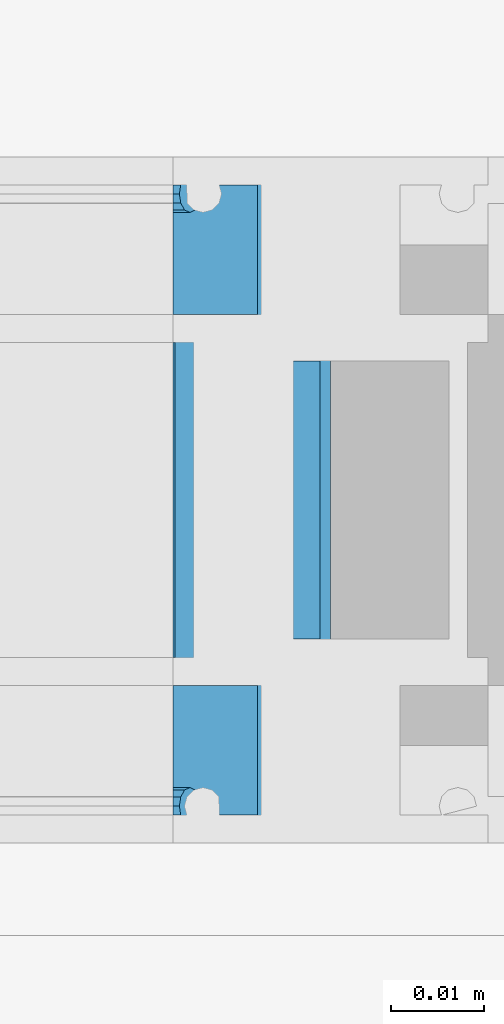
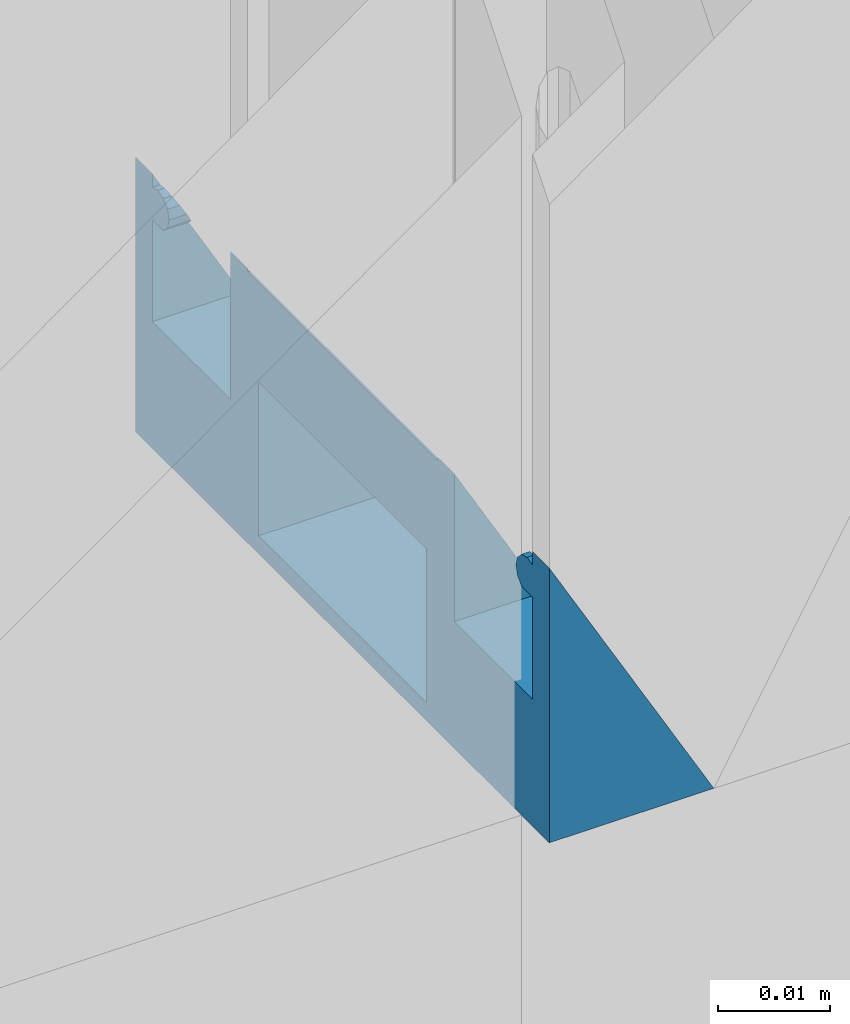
# One storey, part 22 of 43: 1 member, 1 element without a shape of its own.
"""IFC2X3 building model written with IfcOpenShell, lengths in millimetres."""

import ifcopenshell
import ifcopenshell.guid

model = None  # the IFC model being written
_history = None  # IfcOwnerHistory: only IFC2X3 demands one
_inside = {}  # id of a spatial element -> (the spatial element, [elements in it])
_under = {}  # id of a project, library or spatial element -> (it, [spatial elements below it])
_declared = {}  # id of a project -> (the project, [libraries it declares])
_typed = {}  # id of a type object -> (the type object, [elements of that type])
_made_of = {}  # id of a material, layer set ... -> (it, [elements and type objects made of it])


def new_model(schema):
    """Start an empty IFC model of exactly this schema.

    Asked for "IFC4X3", IfcOpenShell would pick the latest addendum, in which some entities
    have other attributes; the version numbers below select the first issue.
    IFC2X3 requires an IfcOwnerHistory on every rooted entity: one is made here for all.
    """
    global model, _history
    if schema == "IFC4X3":
        model = ifcopenshell.file(schema_version=(4, 3, 0, 0))
    else:
        model = ifcopenshell.file(schema=schema)
    _inside.clear()
    _under.clear()
    _declared.clear()
    _typed.clear()
    _made_of.clear()
    _history = None
    if model.schema == "IFC2X3":
        org = make("IfcOrganization", Name="unknown")
        user = make(
            "IfcPersonAndOrganization",
            ThePerson=make("IfcPerson", FamilyName="unknown"),
            TheOrganization=org,
        )
        app = make(
            "IfcApplication",
            ApplicationDeveloper=org,
            Version="unknown",
            ApplicationFullName="unknown",
            ApplicationIdentifier="unknown",
        )
        _history = make(
            "IfcOwnerHistory",
            OwningUser=user,
            OwningApplication=app,
            ChangeAction="ADDED",
            CreationDate=0,
        )
    return model


def make(cls, **values):
    """One entity of the class cls with the attributes given. An attribute that is None is left unset."""
    return model.create_entity(
        cls, **{name: value for name, value in values.items() if value is not None}
    )


def entity(cls, *values):
    """Any entity or typed value of the class cls, its attributes in the order of the schema. None: left unset."""
    e = model.create_entity(cls)
    for i, value in enumerate(values):
        if value is not None:
            e[i] = value
    return e


def rooted(cls, **values):
    """An entity with a GlobalId (a new one), such as an element, a storey or a relation."""
    return make(cls, GlobalId=ifcopenshell.guid.new(), OwnerHistory=_history, **values)


def si_unit(unit_type, name, prefix=None):
    """IfcSIUnit, for example si_unit("LENGTHUNIT", "METRE", prefix="MILLI")."""
    return make("IfcSIUnit", UnitType=unit_type, Prefix=prefix, Name=name)


def converted_unit(unit_type, name, factor, base, dimensions=None, offset=None):
    """IfcConversionBasedUnit, such as the inch: factor (a typed value) times the base unit."""
    return make(
        "IfcConversionBasedUnit"
        if offset is None
        else "IfcConversionBasedUnitWithOffset",
        ConversionOffset=offset,
        Dimensions=None
        if dimensions is None
        else entity("IfcDimensionalExponents", *dimensions),
        UnitType=unit_type,
        Name=name,
        ConversionFactor=make(
            "IfcMeasureWithUnit", ValueComponent=factor, UnitComponent=base
        ),
    )


def derived_unit(unit_type, elements):
    """IfcDerivedUnit: a product of units, each with its exponent."""
    return make(
        "IfcDerivedUnit",
        Elements=[
            make("IfcDerivedUnitElement", Unit=unit, Exponent=power)
            for unit, power in elements
        ],
        UnitType=unit_type,
    )


def money_unit(currency):
    """IfcMonetaryUnit."""
    return make("IfcMonetaryUnit", Currency=currency)


def assignment(units):
    """IfcUnitAssignment: the units of a project."""
    return None if units is None else make("IfcUnitAssignment", Units=units)


def point(xyz):
    """IfcCartesianPoint."""
    return None if xyz is None else make("IfcCartesianPoint", Coordinates=xyz)


def direction(xyz):
    """IfcDirection."""
    return None if xyz is None else make("IfcDirection", DirectionRatios=xyz)


def frame(location, z_axis=None, x_axis=None):
    """IfcAxis2Placement3D, a coordinate frame: its origin and axes. An axis left out is left unset."""
    return make(
        "IfcAxis2Placement3D",
        Location=point(location),
        Axis=direction(z_axis),
        RefDirection=direction(x_axis),
    )


def origin_with_axes():
    """The frame at (0, 0, 0) with the z axis (0, 0, 1) and the x axis (1, 0, 0) written out."""
    return frame((0.0, 0.0, 0.0), z_axis=(0.0, 0.0, 1.0), x_axis=(1.0, 0.0, 0.0))


def place(relative_to, where):
    """IfcLocalPlacement: puts the frame where relative to a parent placement (None: the world)."""
    return make(
        "IfcLocalPlacement", PlacementRelTo=relative_to, RelativePlacement=where
    )


def context(
    kind, dimensions, precision=None, world=None, true_north=None, identifier=None
):
    """IfcGeometricRepresentationContext, for example the 3D "Model" context."""
    return make(
        "IfcGeometricRepresentationContext",
        ContextIdentifier=identifier,
        ContextType=kind,
        CoordinateSpaceDimension=dimensions,
        Precision=precision,
        WorldCoordinateSystem=world,
        TrueNorth=true_north,
    )


def subcontext(parent, identifier, kind, view, scale=None):
    """IfcGeometricRepresentationSubContext, for example "Body" below "Model"."""
    return make(
        "IfcGeometricRepresentationSubContext",
        ContextIdentifier=identifier,
        ContextType=kind,
        ParentContext=parent,
        TargetScale=scale,
        TargetView=view,
    )


def project(units=None, contexts=None):
    """IfcProject with its units and contexts."""
    return rooted(
        "IfcProject",
        Name="project",
        RepresentationContexts=contexts,
        UnitsInContext=assignment(units),
    )


def spatial(cls, under=None, at=None, **own):
    """A site, building, storey or space (cls), placed at a placement, below another one or the project."""
    s = rooted(cls, ObjectPlacement=at, **own)
    if under is not None:
        _under.setdefault(under.id(), (under, []))[1].append(s)
    return s


def faces_of(points, faces, orient=None, outer=None):
    """IfcFace entities. A face is a list of loops; a loop is a list of indices into points, from 0.

    orient and outer hold one flag for each loop. By default every Orientation is true, the
    first loop of a face is its IfcFaceOuterBound and the others are IfcFaceBound.
    """
    made = []
    for i, loops in enumerate(faces):
        bounds = []
        for j, loop in enumerate(loops):
            is_outer = j == 0 if outer is None else outer[i][j]
            bounds.append(
                make(
                    "IfcFaceOuterBound" if is_outer else "IfcFaceBound",
                    Bound=make("IfcPolyLoop", Polygon=[points[k] for k in loop]),
                    Orientation=True if orient is None else orient[i][j],
                )
            )
        made.append(make("IfcFace", Bounds=bounds))
    return made


def faceted_brep(points, faces, orient=None, outer=None, voids=None):
    """IfcFacetedBrep: a solid bounded by flat faces; with voids (closed shells), ...WithVoids."""
    shared = [point(p) for p in points]
    hull = make("IfcClosedShell", CfsFaces=faces_of(shared, faces, orient, outer))
    if voids is None:
        return make("IfcFacetedBrep", Outer=hull)
    return make(
        "IfcFacetedBrepWithVoids",
        Outer=hull,
        Voids=[
            make(cls, CfsFaces=faces_of(shared, fs, o, b)) for cls, fs, o, b in voids
        ],
    )


def shape(context_of_items, identifier, shape_type, items):
    """IfcShapeRepresentation: the items that make up one representation, for example the "Body"."""
    return make(
        "IfcShapeRepresentation",
        ContextOfItems=context_of_items,
        RepresentationIdentifier=identifier,
        RepresentationType=shape_type,
        Items=items,
    )


def material(Name=None, Category=None):
    """IfcMaterial."""
    return make("IfcMaterial", Name=Name, Category=Category)


def material_list(materials):
    """IfcMaterialList."""
    return make("IfcMaterialList", Materials=materials)


def made_of(thing, what):
    """Note that an element or type object is made of a material, layer set ...; save() writes the relation."""
    if what is not None:
        _made_of.setdefault(what.id(), (what, []))[1].append(thing)
    return thing


def type_object(cls, material=None, **own):
    """A type object (cls), such as IfcWallType, which elements share."""
    return made_of(rooted(cls, **own), material)


def element(
    cls,
    number,
    at=None,
    inside=None,
    cuts=None,
    type_object=None,
    material=None,
    context=None,
    identifier="Body",
    shape_type=None,
    held_by="IfcProductDefinitionShape",
    body=None,
    shapes=None,
    **own,
):
    """One element of the class cls, such as IfcWall. Its Tag is "e" and its number.

    at: its placement. inside: the storey or other place that contains it. cuts: it is an
    opening in that element (IfcRelVoidsElement). A single representation is given by context,
    identifier, shape_type and body (its items); several are given by shapes. held_by: the class
    of the entity that holds the representations. save() writes the other relations.
    """
    e = rooted(cls, Tag="e%d" % number, ObjectPlacement=at, **own)
    if body is not None:
        shapes = [shape(context, identifier, shape_type, body)]
    if shapes is not None:
        e.Representation = make(held_by, Representations=shapes)
    if inside is not None:
        _inside.setdefault(inside.id(), (inside, []))[1].append(e)
    if cuts is not None:
        rooted(
            "IfcRelVoidsElement", RelatingBuildingElement=cuts, RelatedOpeningElement=e
        )
    if type_object is not None:
        _typed.setdefault(type_object.id(), (type_object, []))[1].append(e)
    return made_of(e, material)


def aggregate(whole, parts):
    """IfcRelAggregates: a whole, such as a stair, and the parts it consists of."""
    return rooted("IfcRelAggregates", RelatingObject=whole, RelatedObjects=parts)


def save(model, path):
    """Write the relations noted so far, then the file.

    IfcRelAggregates (storeys below a building ...), IfcRelContainedInSpatialStructure (elements
    in a storey), IfcRelDefinesByType, IfcRelAssociatesMaterial and IfcRelDeclares: one each for
    every whole, place, type object, material and project.
    """
    for whole, parts in _under.values():
        aggregate(whole, parts)
    for where, things in _inside.values():
        rooted(
            "IfcRelContainedInSpatialStructure",
            RelatedElements=things,
            RelatingStructure=where,
        )
    for kind, things in _typed.values():
        rooted("IfcRelDefinesByType", RelatedObjects=things, RelatingType=kind)
    for what, things in _made_of.values():
        rooted("IfcRelAssociatesMaterial", RelatedObjects=things, RelatingMaterial=what)
    for by, libraries in _declared.values():
        rooted("IfcRelDeclares", RelatingContext=by, RelatedDefinitions=libraries)
    model.write(path)


model = new_model("IFC2X3")

# Units and contexts
model_context = context("Model", 3, precision=0.01, world=origin_with_axes(), true_north=direction((0.0, 1.0)))
body_context = subcontext(model_context, "Body", "Model", "MODEL_VIEW")
ifc_project = project(units=[si_unit("LENGTHUNIT", "METRE", prefix="MILLI"), si_unit("AREAUNIT", "SQUARE_METRE"), si_unit("VOLUMEUNIT", "CUBIC_METRE"), converted_unit("PLANEANGLEUNIT", "DEGREE", entity("IfcPlaneAngleMeasure", 0.0174532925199), si_unit("PLANEANGLEUNIT", "RADIAN"), dimensions=[0, 0, 0, 0, 0, 0, 0]), si_unit("SOLIDANGLEUNIT", "STERADIAN"), money_unit("EUR"), converted_unit("TIMEUNIT", "Year", entity("IfcTimeMeasure", 31556926.0), si_unit("TIMEUNIT", "SECOND"), dimensions=[0, 0, 1, 0, 0, 0, 0]), si_unit("MASSUNIT", "GRAM", prefix="KILO"), si_unit("THERMODYNAMICTEMPERATUREUNIT", "DEGREE_CELSIUS"), si_unit("LUMINOUSINTENSITYUNIT", "LUMEN"), si_unit("ENERGYUNIT", "JOULE", prefix="MEGA"), derived_unit("THERMALCONDUCTANCEUNIT", [(si_unit("POWERUNIT", "WATT"), 1), (si_unit("LENGTHUNIT", "METRE"), -1), (si_unit("THERMODYNAMICTEMPERATUREUNIT", "KELVIN"), -1)]), derived_unit("SPECIFICHEATCAPACITYUNIT", [(si_unit("ENERGYUNIT", "JOULE"), 1), (si_unit("MASSUNIT", "GRAM", prefix="KILO"), -1), (si_unit("THERMODYNAMICTEMPERATUREUNIT", "KELVIN"), -1)]), derived_unit("MASSDENSITYUNIT", [(si_unit("MASSUNIT", "GRAM", prefix="KILO"), 1), (si_unit("VOLUMEUNIT", "CUBIC_METRE"), -1)])], contexts=[model_context])

# Site, building, storey
site_placement = place(None, origin_with_axes())
site = spatial("IfcSite", under=ifc_project, at=site_placement, Name="L.Koidula tn 11b", CompositionType="ELEMENT")
building_placement = place(site_placement, origin_with_axes())
building = spatial("IfcBuilding", under=site, at=building_placement, Name="Rakvere Riigigümnaasium", CompositionType="ELEMENT")
storey_placement = place(building_placement, frame((0.0, 0.0, 6665.0), z_axis=(0.0, 0.0, 1.0), x_axis=(1.0, 0.0, 0.0)))
storey = spatial("IfcBuildingStorey", under=building, at=storey_placement, Name="3.korrus +6,66", CompositionType="ELEMENT", Elevation=6665.0)

# Curtain wall, member
curtain_wall_type = type_object("IfcCurtainWallType", Name="Curtain Wall Type", PredefinedType="NOTDEFINED")
curtain_wall_placement = place(storey_placement, frame((58878.6347232, 19272.4397072, 0.0), z_axis=(0.0, 0.0, 1.0), x_axis=(1.0, 0.0, 0.0)))
curtain_wall = element("IfcCurtainWall", 1, at=curtain_wall_placement, inside=storey, type_object=curtain_wall_type, Name="SKLF-29")
ifc_material_1 = material(Name="Klaasvill")
ifc_material_2 = material(Name="Teras RAL7012")
ifc_material_list = material_list([ifc_material_1, ifc_material_2])
member_type = type_object("IfcMemberType", Name="Siseklaasfassaad-Servaprofiil-Doubleline30 30 x 42", PredefinedType="MULLION")
member_placement = place(curtain_wall_placement, frame((454.399993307, 0.0, 2400.0), z_axis=(1.0, 0.0, 0.0), x_axis=(0.0, 0.0, 1.0)))
member = element("IfcMember", 2, at=member_placement, type_object=member_type, material=ifc_material_list, Name="Frame-Siseklaasf-377", ObjectType="MULLION", context=body_context, shape_type="Brep", body=[
    faceted_brep([(7.49999990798, 15.000000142, 0.0), (13.8499999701, 15.000000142, 0.0), (13.8499999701, 15.000000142, 9.15167118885), (7.49999990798, 15.000000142, 12.7500063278), (7.49999990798, 29.0161444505, 0.0), (13.8499999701, 29.0161444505, 0.0), (13.8499999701, 29.0161444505, 9.15167118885), (7.49999990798, 29.0161444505, 12.7500063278)], [[[0, 1, 2, 3]], [[0, 4, 5, 1]], [[1, 5, 6, 2]], [[3, 2, 6, 7]], [[4, 0, 3, 7]], [[5, 4, 7, 6]]]),
    faceted_brep([(24.987414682, 29.0161444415, 0.0), (25.004489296, 27.0307503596, 0.0), (25.004489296, 27.0307503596, 2.83079079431), (24.987414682, 29.0161444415, 2.84046641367), (28.5126239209, 29.0161444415, 0.0), (28.7655837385, 28.0385325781, 0.0), (28.4955493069, 27.0307503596, 0.0), (27.75780152, 26.2930025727, 0.0), (26.7500193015, 26.0229681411, 0.0), (25.742237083, 26.2930025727, 0.0), (25.742237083, 26.2930025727, 2.41273350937), (26.7500193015, 26.0229681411, 1.84165663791), (27.75780152, 26.2930025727, 1.27057976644), (28.4955493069, 27.0307503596, 0.852522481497), (28.7655837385, 28.0385325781, 0.699502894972), (28.5126239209, 29.0161444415, 0.842846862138)], [[[0, 1, 2, 3]], [[0, 4, 5, 6, 7, 8, 9, 1]], [[1, 9, 10, 2]], [[3, 2, 10, 11, 12, 13, 14, 15]], [[4, 0, 3, 15]], [[5, 4, 15, 14]], [[6, 5, 14, 13]], [[7, 6, 13, 12]], [[8, 7, 12, 11]], [[9, 8, 11, 10]]]),
    faceted_brep([(7.49999990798, -24.9999997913, 0.0), (7.49999990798, -39.0161445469, 0.0), (7.49999990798, -39.0161445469, 12.7500063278), (7.49999990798, -24.9999997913, 12.7500063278), (13.8499999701, -24.9999997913, 0.0), (13.8499999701, -39.0161445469, 0.0), (13.8499999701, -39.0161445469, 9.15167118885), (13.8499999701, -24.9999997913, 9.15167118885)], [[[0, 1, 2, 3]], [[0, 4, 5, 1]], [[1, 5, 6, 2]], [[3, 2, 6, 7]], [[4, 0, 3, 7]], [[5, 4, 7, 6]]]),
    faceted_brep([(25.004489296, -37.0307503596, 0.0), (24.987414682, -39.0161444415, 0.0), (24.987414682, -39.0161444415, 2.84046641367), (25.004489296, -37.0307503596, 2.83079079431), (25.742237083, -36.2930025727, 0.0), (26.7500193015, -36.0229681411, 0.0), (27.75780152, -36.2930025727, 0.0), (28.4955493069, -37.0307503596, 0.0), (28.7655837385, -38.0385325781, 0.0), (28.5126239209, -39.0161444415, 0.0), (28.5126239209, -39.0161444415, 0.842846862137), (28.7655837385, -38.0385325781, 0.699502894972), (28.4955493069, -37.0307503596, 0.852522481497), (27.75780152, -36.2930025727, 1.27057976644), (26.7500193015, -36.0229681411, 1.84165663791), (25.742237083, -36.2930025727, 2.41273350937)], [[[0, 1, 2, 3]], [[0, 4, 5, 6, 7, 8, 9, 1]], [[1, 9, 10, 2]], [[3, 2, 10, 11, 12, 13, 14, 15]], [[4, 0, 3, 15]], [[5, 4, 15, 14]], [[6, 5, 14, 13]], [[7, 6, 13, 12]], [[8, 7, 12, 11]], [[9, 8, 11, 10]]]),
    faceted_brep([(0.0, -22.0000000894, 0.0), (29.5999996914, -22.0000000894, 0.0), (29.5999996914, -22.0000000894, 0.226666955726), (0.0, -22.0000000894, 17.0000083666), (0.0, 12.0000000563, 0.0), (29.5999996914, 12.0000000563, 0.0), (1.9999999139, 10.0000001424, 0.0), (1.9999999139, -20.0000001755, 0.0), (18.7999996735, -20.0000001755, 0.0), (18.7999996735, 10.0000001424, 0.0), (29.5999996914, 12.0000000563, 0.226666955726), (0.0, 12.0000000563, 17.0000083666), (1.9999999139, 10.0000001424, 15.8666745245), (18.7999996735, 10.0000001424, 6.34666997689), (18.7999996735, -20.0000001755, 6.34666997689), (1.9999999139, -20.0000001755, 15.8666745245)], [[[0, 1, 2, 3]], [[0, 4, 5, 1], [6, 7, 8, 9]], [[1, 5, 10, 2]], [[3, 2, 10, 11], [12, 13, 14, 15]], [[4, 0, 3, 11]], [[5, 4, 11, 10]], [[7, 6, 12, 15]], [[8, 7, 15, 14]], [[9, 8, 14, 13]], [[6, 9, 13, 12]]]),
    faceted_brep([(0.0, 12.0, 0.0), (0.0, 12.0, 17.0000083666), (0.0, 32.0, 17.0000083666), (0.0, 32.0, 0.0), (29.5999996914, 12.0000000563, 0.0), (29.5999996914, 12.0000000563, 0.226666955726), (30.0000193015, 12.0, 0.0), (30.0000193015, 15.0, 0.0), (13.8499999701, 15.000000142, 9.15167118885), (7.49999999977, 15.0, 12.7500062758), (7.49999999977, 29.0161444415, 12.7500062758), (13.8499999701, 29.0161444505, 9.15167118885), (24.987414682, 29.0161444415, 2.84046641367), (28.5126239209, 29.0161444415, 0.842846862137), (30.0000193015, 29.0161444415, 0.0), (30.0000193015, 32.0, 0.0), (7.49999999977, 29.0161444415, 0.0), (7.49999999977, 15.0, 0.0), (13.8499999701, 15.000000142, 0.0), (28.5126239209, 29.0161444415, 0.0), (24.987414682, 29.0161444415, 0.0), (13.8499999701, 29.0161444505, 0.0)], [[[0, 1, 2, 3]], [[1, 0, 4, 5]], [[2, 1, 5, 6, 7, 8, 9, 10, 11, 12, 13, 14, 15]], [[3, 2, 15]], [[16, 17, 18, 7, 6, 4, 0, 3, 15, 14, 19, 20, 21]], [[4, 6, 5]], [[18, 8, 7]], [[17, 9, 8, 18]], [[17, 16, 10, 9]], [[10, 16, 21, 11]], [[21, 20, 12, 11]], [[20, 19, 13, 12]], [[13, 19, 14]]]),
    faceted_brep([(0.0, -42.0, 0.0), (0.0, -42.0, 17.0000083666), (0.0, -22.0, 17.0000083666), (0.0, -22.0, 0.0), (30.0000193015, -42.0, 0.0), (30.0000193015, -39.0161444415, 0.0), (28.5126239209, -39.0161444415, 0.842846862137), (24.987414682, -39.0161444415, 2.84046641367), (13.8499999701, -39.0161445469, 9.15167118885), (7.49999999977, -39.0161444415, 12.7500062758), (7.49999999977, -25.0, 12.7500062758), (13.8499999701, -24.9999997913, 9.15167118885), (30.0000193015, -25.0, 0.0), (30.0000193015, -22.0, 0.0), (29.5999996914, -22.0000000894, 0.226666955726), (29.5999996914, -22.0000000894, 0.0), (7.49999999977, -25.0, 0.0), (7.49999999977, -39.0161444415, 0.0), (13.8499999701, -39.0161445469, 0.0), (24.987414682, -39.0161444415, 0.0), (28.5126239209, -39.0161444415, 0.0), (13.8499999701, -24.9999997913, 0.0)], [[[0, 1, 2, 3]], [[1, 0, 4]], [[2, 1, 4, 5, 6, 7, 8, 9, 10, 11, 12, 13, 14]], [[3, 2, 14, 15]], [[16, 17, 18, 19, 20, 5, 4, 0, 3, 15, 13, 12, 21]], [[20, 6, 5]], [[20, 19, 7, 6]], [[18, 8, 7, 19]], [[17, 9, 8, 18]], [[17, 16, 10, 9]], [[10, 16, 21, 11]], [[11, 21, 12]], [[15, 14, 13]]]),
])
aggregate(curtain_wall, [member])

save(model, "model.ifc")
